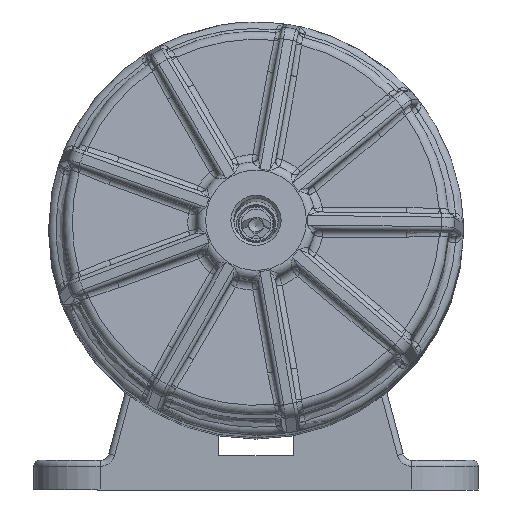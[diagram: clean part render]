
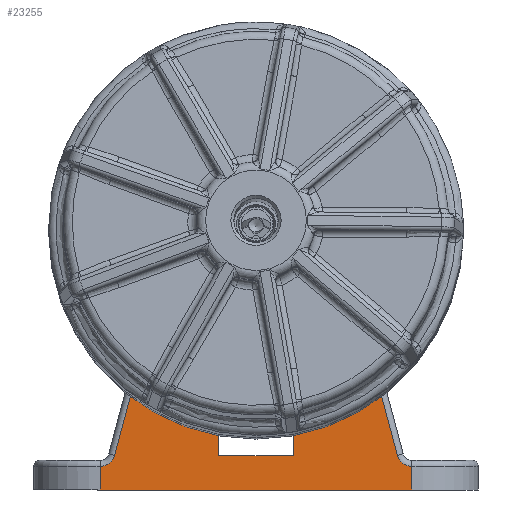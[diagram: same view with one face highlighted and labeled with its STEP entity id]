
A CAD part, front view. The second image highlights one B-rep face of the part: STEP entity #23255.
In plain terms, the highlighted planar face has unit normal (0, -1, 0).
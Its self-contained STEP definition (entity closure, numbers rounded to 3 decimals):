
#3142=LINE('',#45144,#4453);
#3157=LINE('',#45177,#4468);
#3158=LINE('',#45180,#4469);
#3175=LINE('',#45222,#4486);
#3185=LINE('',#45245,#4496);
#3223=LINE('',#45334,#4534);
#3270=LINE('',#45499,#4581);
#3280=LINE('',#45528,#4591);
#3297=LINE('',#45564,#4608);
#3326=LINE('',#45694,#4637);
#3328=LINE('',#45765,#4639);
#3330=LINE('',#45771,#4641);
#3335=LINE('',#45814,#4646);
#3337=LINE('',#45852,#4648);
#3338=LINE('',#45855,#4649);
#3341=LINE('',#45871,#4652);
#4453=VECTOR('',#28283,10.);
#4468=VECTOR('',#28318,10.);
#4469=VECTOR('',#28321,10.);
#4486=VECTOR('',#28360,10.);
#4496=VECTOR('',#28386,10.);
#4534=VECTOR('',#28448,10.);
#4581=VECTOR('',#28563,10.);
#4591=VECTOR('',#28587,10.);
#4608=VECTOR('',#28616,10.);
#4637=VECTOR('',#28711,10.);
#4639=VECTOR('',#28743,10.);
#4641=VECTOR('',#28749,10.);
#4646=VECTOR('',#28770,10.);
#4648=VECTOR('',#28792,10.);
#4649=VECTOR('',#28797,10.);
#4652=VECTOR('',#28818,10.);
#5649=PLANE('',#24957);
#6626=FACE_OUTER_BOUND('',#7930,.T.);
#7930=EDGE_LOOP('',(#19035,#19036,#19037,#19038,#19039,#19040,#19041,#19042,
#19043,#19044,#19045,#19046,#19047,#19048,#19049,#19050,#19051,#19052));
#9205=CIRCLE('',#24925,5.);
#9210=CIRCLE('',#24934,5.);
#10848=VERTEX_POINT('',#45135);
#10851=VERTEX_POINT('',#45143);
#10859=VERTEX_POINT('',#45175);
#10860=VERTEX_POINT('',#45179);
#10873=VERTEX_POINT('',#45215);
#10874=VERTEX_POINT('',#45220);
#10879=VERTEX_POINT('',#45244);
#10918=VERTEX_POINT('',#45333);
#10981=VERTEX_POINT('',#45496);
#10982=VERTEX_POINT('',#45498);
#10994=VERTEX_POINT('',#45527);
#11007=VERTEX_POINT('',#45562);
#11040=VERTEX_POINT('',#45754);
#11041=VERTEX_POINT('',#45761);
#11043=VERTEX_POINT('',#45769);
#11047=VERTEX_POINT('',#45782);
#11048=VERTEX_POINT('',#45784);
#11051=VERTEX_POINT('',#45851);
#13626=EDGE_CURVE('',#10851,#10848,#3142,.T.);
#13644=EDGE_CURVE('',#10848,#10859,#3157,.T.);
#13645=EDGE_CURVE('',#10860,#10851,#3158,.T.);
#13667=EDGE_CURVE('',#10873,#10874,#3175,.T.);
#13678=EDGE_CURVE('',#10879,#10873,#3185,.T.);
#13723=EDGE_CURVE('',#10918,#10860,#3223,.T.);
#13797=EDGE_CURVE('',#10982,#10981,#3270,.T.);
#13812=EDGE_CURVE('',#10994,#10879,#3280,.T.);
#13832=EDGE_CURVE('',#10859,#11007,#3297,.T.);
#13881=EDGE_CURVE('',#10874,#10982,#3326,.T.);
#13894=EDGE_CURVE('',#11040,#11041,#9205,.T.);
#13895=EDGE_CURVE('',#11041,#11007,#3328,.T.);
#13898=EDGE_CURVE('',#11043,#11040,#3330,.T.);
#13906=EDGE_CURVE('',#11048,#11047,#9210,.T.);
#13909=EDGE_CURVE('',#10994,#11048,#3335,.T.);
#13917=EDGE_CURVE('',#11051,#11047,#3337,.T.);
#13919=EDGE_CURVE('',#10981,#10918,#3338,.T.);
#13926=EDGE_CURVE('',#11051,#11043,#3341,.T.);
#19035=ORIENTED_EDGE('',*,*,#13894,.F.);
#19036=ORIENTED_EDGE('',*,*,#13898,.F.);
#19037=ORIENTED_EDGE('',*,*,#13926,.F.);
#19038=ORIENTED_EDGE('',*,*,#13917,.T.);
#19039=ORIENTED_EDGE('',*,*,#13906,.F.);
#19040=ORIENTED_EDGE('',*,*,#13909,.F.);
#19041=ORIENTED_EDGE('',*,*,#13812,.T.);
#19042=ORIENTED_EDGE('',*,*,#13678,.T.);
#19043=ORIENTED_EDGE('',*,*,#13667,.T.);
#19044=ORIENTED_EDGE('',*,*,#13881,.T.);
#19045=ORIENTED_EDGE('',*,*,#13797,.T.);
#19046=ORIENTED_EDGE('',*,*,#13919,.T.);
#19047=ORIENTED_EDGE('',*,*,#13723,.T.);
#19048=ORIENTED_EDGE('',*,*,#13645,.T.);
#19049=ORIENTED_EDGE('',*,*,#13626,.T.);
#19050=ORIENTED_EDGE('',*,*,#13644,.T.);
#19051=ORIENTED_EDGE('',*,*,#13832,.T.);
#19052=ORIENTED_EDGE('',*,*,#13895,.F.);
#23255=ADVANCED_FACE('',(#6626),#5649,.T.);
#24925=AXIS2_PLACEMENT_3D('',#45763,#28739,#28740);
#24934=AXIS2_PLACEMENT_3D('',#45786,#28764,#28765);
#24957=AXIS2_PLACEMENT_3D('',#45870,#28816,#28817);
#28283=DIRECTION('',(-1.,0.,0.));
#28318=DIRECTION('',(-1.,0.,0.));
#28321=DIRECTION('',(-1.,0.,0.));
#28360=DIRECTION('',(-1.,0.,0.));
#28386=DIRECTION('',(-1.,0.,0.));
#28448=DIRECTION('',(0.,0.,1.));
#28563=DIRECTION('',(0.,0.,-1.));
#28587=DIRECTION('',(0.,0.,1.));
#28616=DIRECTION('',(0.,0.,-1.));
#28711=DIRECTION('',(-1.,0.,0.));
#28739=DIRECTION('center_axis',(0.,-1.,0.));
#28740=DIRECTION('ref_axis',(0.619,0.,-0.785));
#28743=DIRECTION('',(0.259,0.,0.966));
#28749=DIRECTION('',(0.,0.,1.));
#28764=DIRECTION('center_axis',(0.,-1.,0.));
#28765=DIRECTION('ref_axis',(-0.619,0.,-0.785));
#28770=DIRECTION('',(0.259,0.,-0.966));
#28792=DIRECTION('',(0.,0.,1.));
#28797=DIRECTION('',(-1.,0.,0.));
#28816=DIRECTION('center_axis',(0.,-1.,0.));
#28817=DIRECTION('ref_axis',(0.,0.,
-1.));
#28818=DIRECTION('',(-1.,0.,0.));
#45135=CARTESIAN_POINT('',(-27.,-22.239,116.27));
#45143=CARTESIAN_POINT('',(-14.,-22.239,116.27));
#45144=CARTESIAN_POINT('',(52.5,-22.239,116.27));
#45175=CARTESIAN_POINT('',(-27.5,-22.239,116.27));
#45177=CARTESIAN_POINT('',(52.5,-22.239,116.27));
#45179=CARTESIAN_POINT('',(-12.5,-22.239,116.27));
#45180=CARTESIAN_POINT('',(52.5,-22.239,116.27));
#45215=CARTESIAN_POINT('',(27.,-22.239,116.27));
#45220=CARTESIAN_POINT('',(14.,-22.239,116.27));
#45222=CARTESIAN_POINT('',(52.5,-22.239,116.27));
#45244=CARTESIAN_POINT('',(27.5,-22.239,116.27));
#45245=CARTESIAN_POINT('',(52.5,-22.239,116.27));
#45333=CARTESIAN_POINT('',(-12.5,-22.239,17.77));
#45334=CARTESIAN_POINT('',(-12.5,-22.239,61.27));
#45496=CARTESIAN_POINT('',(12.5,-22.239,17.77));
#45498=CARTESIAN_POINT('',(12.5,-22.239,116.27));
#45499=CARTESIAN_POINT('',(12.5,-22.239,12.02));
#45527=CARTESIAN_POINT('',(27.5,-22.239,93.543));
#45528=CARTESIAN_POINT('',(27.5,-22.239,61.27));
#45562=CARTESIAN_POINT('',(-27.5,-22.239,93.543));
#45564=CARTESIAN_POINT('',(-27.5,-22.239,53.77));
#45694=CARTESIAN_POINT('',(52.5,-22.239,116.27));
#45754=CARTESIAN_POINT('',(-52.5,-22.239,14.271));
#45761=CARTESIAN_POINT('',(-47.748,-22.239,17.976));
#45763=CARTESIAN_POINT('Origin',(-52.578,-22.239,19.27));
#45765=CARTESIAN_POINT('',(-45.854,-22.239,25.046));
#45769=CARTESIAN_POINT('',(-52.5,-22.239,6.27));
#45771=CARTESIAN_POINT('',(-52.5,-22.239,6.27));
#45782=CARTESIAN_POINT('',(52.5,-22.239,14.271));
#45784=CARTESIAN_POINT('',(47.748,-22.239,17.976));
#45786=CARTESIAN_POINT('Origin',(52.578,-22.239,19.27));
#45814=CARTESIAN_POINT('',(38.28,-22.239,53.309));
#45851=CARTESIAN_POINT('',(52.5,-22.239,6.27));
#45852=CARTESIAN_POINT('',(52.5,-22.239,6.27));
#45855=CARTESIAN_POINT('',(27.955,-22.239,17.77));
#45870=CARTESIAN_POINT('Origin',(52.5,-22.239,6.27));
#45871=CARTESIAN_POINT('',(52.5,-22.239,6.27));
